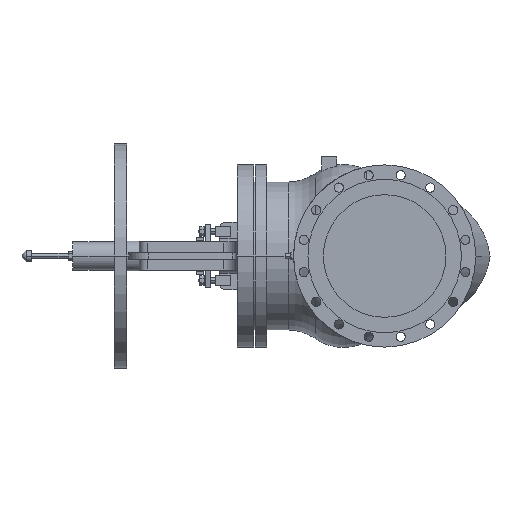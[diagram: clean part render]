
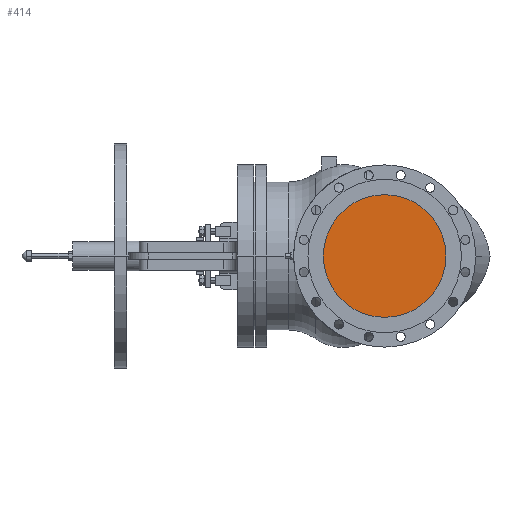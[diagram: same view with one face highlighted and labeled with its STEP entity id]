
A CAD part, left-side view. The second image highlights one B-rep face of the part: STEP entity #414.
In plain terms, the highlighted planar face has unit normal (-1, 0, 0).
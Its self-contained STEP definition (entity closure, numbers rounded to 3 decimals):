
#414 = ADVANCED_FACE( '', ( #1204 ), #1205, .T. );
#1204 = FACE_OUTER_BOUND( '', #2032, .T. );
#1205 = PLANE( '', #2033 );
#2032 = EDGE_LOOP( '', ( #4963, #4964 ) );
#2033 = AXIS2_PLACEMENT_3D( '', #4965, #4966, #4967 );
#4963 = ORIENTED_EDGE( '', *, *, #6104, .T. );
#4964 = ORIENTED_EDGE( '', *, *, #5223, .T. );
#4965 = CARTESIAN_POINT( '', ( 1., 87.5, 0. ) );
#4966 = DIRECTION( '', ( -1., 0., 0. ) );
#4967 = DIRECTION( '', ( 0., 1., 0. ) );
#5223 = EDGE_CURVE( '', #6289, #6286, #6290, .T. );
#6104 = EDGE_CURVE( '', #6286, #6289, #7744, .T. );
#6286 = VERTEX_POINT( '', #8022 );
#6289 = VERTEX_POINT( '', #8026 );
#6290 = CIRCLE( '', #8027, 175. );
#7744 = CIRCLE( '', #10772, 175. );
#8022 = CARTESIAN_POINT( '', ( 1., 175., 0. ) );
#8026 = CARTESIAN_POINT( '', ( 1., -175., 0. ) );
#8027 = AXIS2_PLACEMENT_3D( '', #10959, #10960, #10961 );
#10772 = AXIS2_PLACEMENT_3D( '', #12478, #12479, #12480 );
#10959 = CARTESIAN_POINT( '', ( 1., 0., 0. ) );
#10960 = DIRECTION( '', ( -1., 0., 0. ) );
#10961 = DIRECTION( '', ( 0., 1., 0. ) );
#12478 = CARTESIAN_POINT( '', ( 1., 0., 0. ) );
#12479 = DIRECTION( '', ( -1., 0., 0. ) );
#12480 = DIRECTION( '', ( 0., 1., 0. ) );
